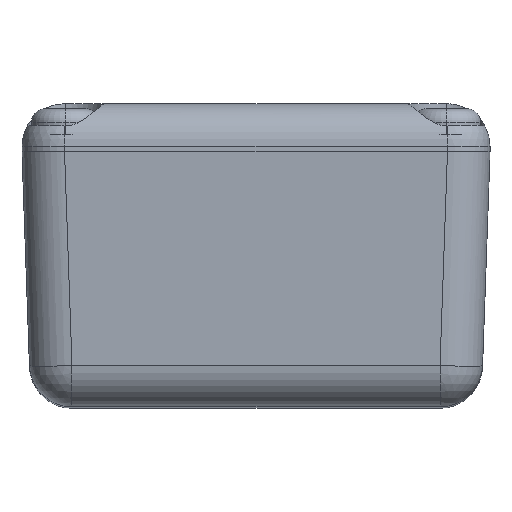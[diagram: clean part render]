
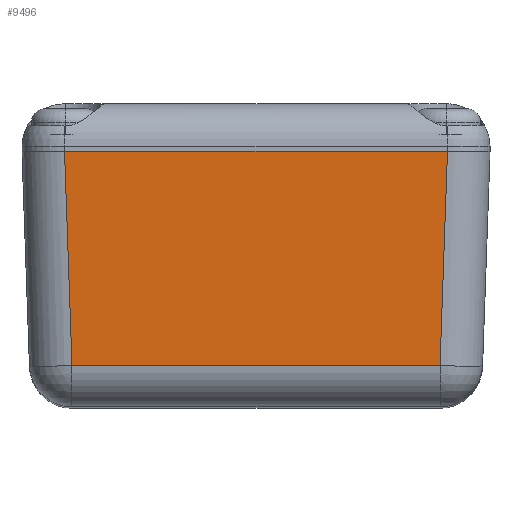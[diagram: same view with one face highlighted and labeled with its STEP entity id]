
A CAD part, top view. The second image highlights one B-rep face of the part: STEP entity #9496.
In plain terms, the highlighted planar face has unit normal (0, -0.035, 0.999).
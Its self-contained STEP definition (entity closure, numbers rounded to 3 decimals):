
#2402 = CARTESIAN_POINT ( 'NONE',  ( 11.221, -0.871, 28.72 ) ) ;
#2640 = EDGE_LOOP ( 'NONE', ( #5494, #18351, #39294, #25132 ) ) ;
#2986 = LINE ( 'NONE', #2402, #34474 ) ;
#4624 = DIRECTION ( 'NONE',  ( 1., 0., 0. ) ) ;
#5494 = ORIENTED_EDGE ( 'NONE', *, *, #33244, .T. ) ;
#5516 = VERTEX_POINT ( 'NONE', #33609 ) ;
#6380 = LINE ( 'NONE', #17251, #14559 ) ;
#6841 = VERTEX_POINT ( 'NONE', #22924 ) ;
#8897 = VECTOR ( 'NONE', #26545, 1000. ) ;
#9496 = ADVANCED_FACE ( 'NONE', ( #30192 ), #31988, .T. ) ;
#12070 = LINE ( 'NONE', #29287, #27285 ) ;
#14559 = VECTOR ( 'NONE', #35365, 1000. ) ;
#14941 = DIRECTION ( 'NONE',  ( 0., -0.999, -0.035 ) ) ;
#16807 = VERTEX_POINT ( 'NONE', #30841 ) ;
#17251 = CARTESIAN_POINT ( 'NONE',  ( -13.75, 0., 28.75 ) ) ;
#18351 = ORIENTED_EDGE ( 'NONE', *, *, #27383, .T. ) ;
#22852 = EDGE_CURVE ( 'NONE', #16807, #6841, #37985, .T. ) ;
#22924 = CARTESIAN_POINT ( 'NONE',  ( -10.812, -12.587, 28.31 ) ) ;
#25132 = ORIENTED_EDGE ( 'NONE', *, *, #22852, .T. ) ;
#25312 = AXIS2_PLACEMENT_3D ( 'NONE', #26547, #39070, #14941 ) ;
#26545 = DIRECTION ( 'NONE',  ( 0.035, -0.999, -0.035 ) ) ;
#26547 = CARTESIAN_POINT ( 'NONE',  ( -13.75, 0., 28.75 ) ) ;
#27156 = CARTESIAN_POINT ( 'NONE',  ( 10.812, -12.587, 28.31 ) ) ;
#27285 = VECTOR ( 'NONE', #4624, 1000. ) ;
#27383 = EDGE_CURVE ( 'NONE', #30663, #5516, #2986, .T. ) ;
#29287 = CARTESIAN_POINT ( 'NONE',  ( 13.226, -12.587, 28.31 ) ) ;
#29314 = CARTESIAN_POINT ( 'NONE',  ( -11.255, 0.087, 28.753 ) ) ;
#30192 = FACE_OUTER_BOUND ( 'NONE', #2640, .T. ) ;
#30663 = VERTEX_POINT ( 'NONE', #27156 ) ;
#30841 = CARTESIAN_POINT ( 'NONE',  ( -11.252, 0., 28.75 ) ) ;
#30976 = EDGE_CURVE ( 'NONE', #16807, #5516, #6380, .T. ) ;
#31988 = PLANE ( 'NONE',  #25312 ) ;
#32543 = DIRECTION ( 'NONE',  ( 0.035, 0.999, 0.035 ) ) ;
#33244 = EDGE_CURVE ( 'NONE', #6841, #30663, #12070, .T. ) ;
#33609 = CARTESIAN_POINT ( 'NONE',  ( 11.252, 0., 28.75 ) ) ;
#34474 = VECTOR ( 'NONE', #32543, 1000. ) ;
#35365 = DIRECTION ( 'NONE',  ( 1., 0., 0. ) ) ;
#37985 = LINE ( 'NONE', #29314, #8897 ) ;
#39070 = DIRECTION ( 'NONE',  ( 0., -0.035, 0.999 ) ) ;
#39294 = ORIENTED_EDGE ( 'NONE', *, *, #30976, .F. ) ;
